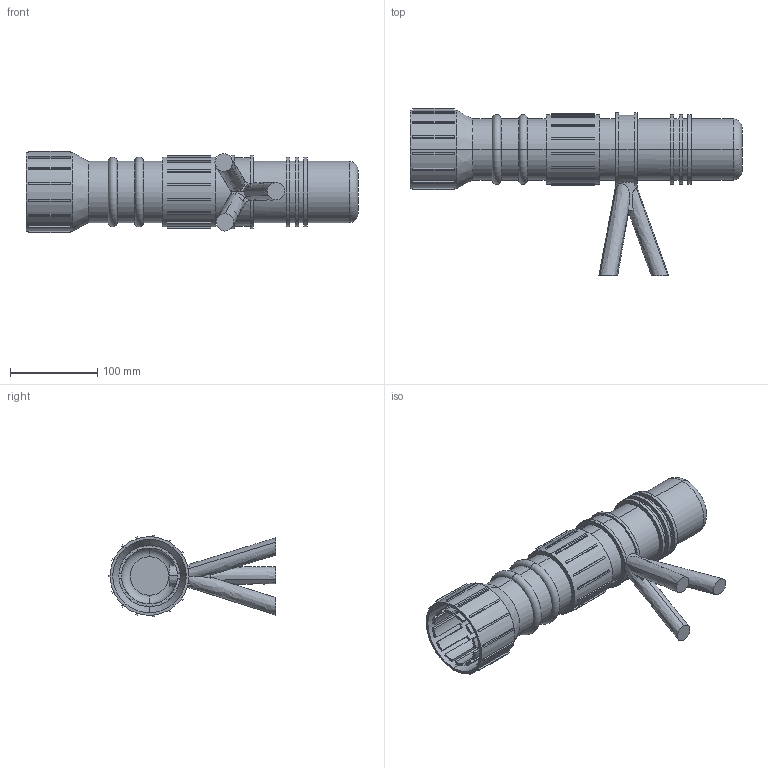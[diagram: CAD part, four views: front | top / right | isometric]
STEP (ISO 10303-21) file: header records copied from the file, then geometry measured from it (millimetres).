
FILE_DESCRIPTION (( 'STEP AP203' ), '1' );
FILE_NAME ('Cannon.STEP', '2021-06-04T13:45:24', ( '' ), ( '' ), 'SwSTEP 2.0', 'SolidWorks 2016', '' );
FILE_SCHEMA (( 'CONFIG_CONTROL_DESIGN' ));
Length unit declared in the file: centimetre
Products named in the file (1): Cannon
Bounding box: 380 x 191.28 x 93.69 mm (x, y, z)
Volume: 522662.5 mm3; surface area: 251624.9 mm2
Topology: 1 solids, 1 shells, 296 faces, 736 edges, 480 vertices
Faces by surface type: plane 218, cylinder 47, cone 17, torus 8, bspline 6
Entity records: 9482 total; most frequent: CARTESIAN_POINT 2274, DIRECTION 1488, ORIENTED_EDGE 1464, EDGE_CURVE 732, AXIS2_PLACEMENT_3D 519, VERTEX_POINT 480, VECTOR 450, LINE 450
